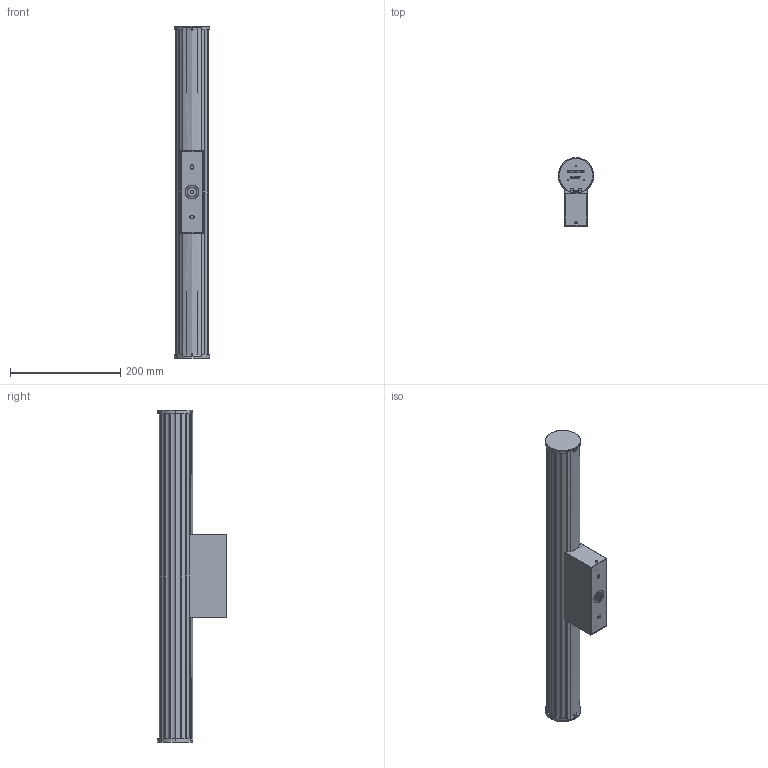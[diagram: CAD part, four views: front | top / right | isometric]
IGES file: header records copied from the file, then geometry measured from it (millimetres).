
Start section: SolidWorks IGES file using analytic representation for surfaces
Global section: file name: \\srvficheros\grupos\DISENYO\DESARROLLO DE PRODUCTO\_3D_WEB\SAFE-A3991071\SAFE-A3991071.IGS; native system: SolidWorks 2025; preprocessor: SolidWorks 2025; author: d.pons; date: 260115.085645; units: millimetre
Bounding box: 63.5 x 123.5 x 601 mm (x, y, z)
Surface area: 527166.8 mm2 (no closed solid volume)
Topology: 0 solids, 0 shells, 808 faces, 10290 edges, 10264 vertices
Faces by surface type: bspline 530, revolution 278
